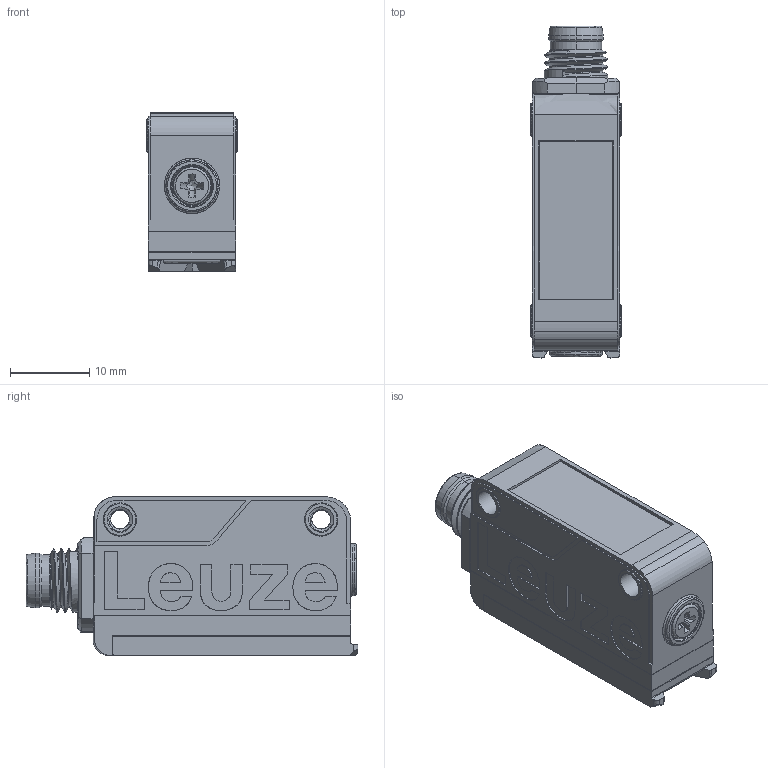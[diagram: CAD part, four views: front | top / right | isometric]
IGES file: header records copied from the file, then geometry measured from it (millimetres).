
Global section: file name: \\leuze.de\dfs01\TempdirOwen\lem\3DCAD_HT5B_M8.igs; native system: NX V11.0; preprocessor: SIEMENS PLM Software NX 11.0; date: 20220512.145305; units: millimetre
Bounding box: 11.4 x 41.88 x 20.05 mm (x, y, z)
Surface area: 3745 mm2 (no closed solid volume)
Topology: 0 solids, 0 shells, 437 faces, 2569 edges, 2546 vertices
Faces by surface type: bspline 437
